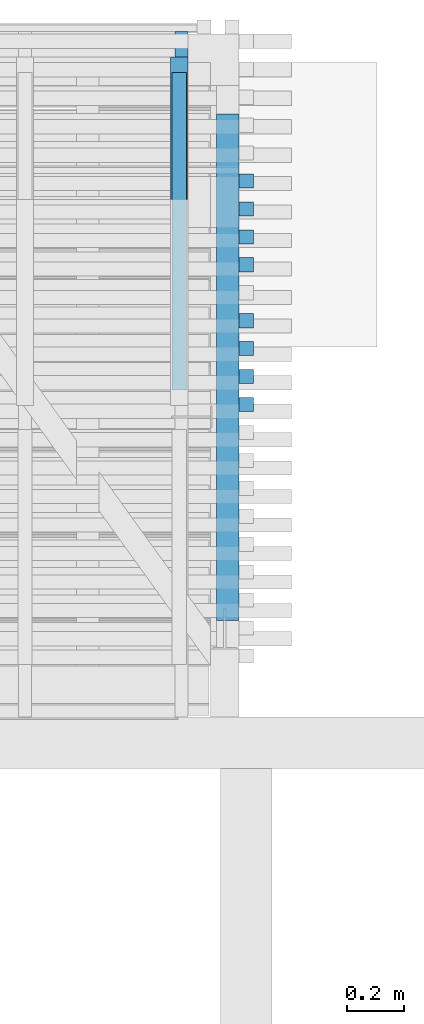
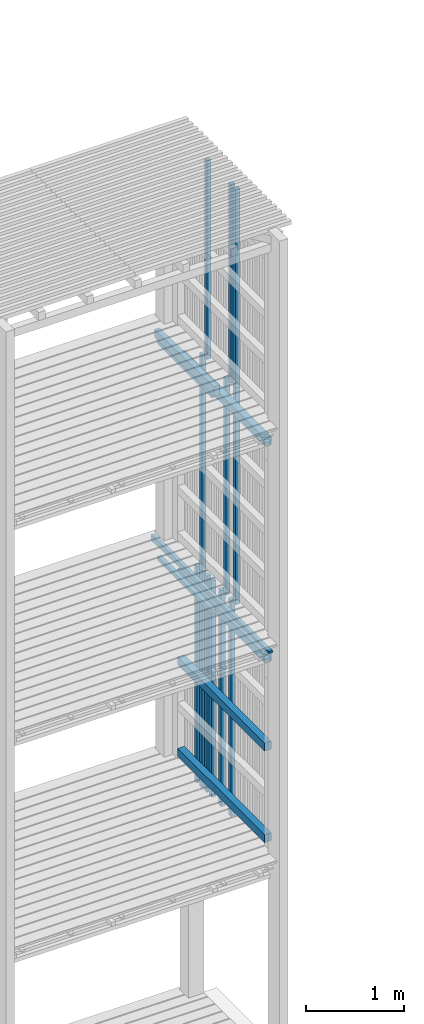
# One storey, part 157 of 182: 20 beams.
"""IFC2X3 building model written with IfcOpenShell, lengths in metres."""

from ifc_helpers import new_model, si_unit, frame, origin, place, context, project, spatial, faceted_brep, element, save


model = new_model("IFC2X3")

# Units and contexts
model_context = context("Model", 3, precision=1e-06, world=origin())
ifc_project = project(units=[si_unit("LENGTHUNIT", "METRE"), si_unit("PLANEANGLEUNIT", "RADIAN")], contexts=[model_context])

# Site, building, storey
site = spatial("IfcSite", under=ifc_project, CompositionType="ELEMENT")
building = spatial("IfcBuilding", under=site, CompositionType="ELEMENT")
storey = spatial("IfcBuildingStorey", under=building, Name="vs", CompositionType="ELEMENT", Elevation=-0.85)

# Beams
placement = place(None, origin())
beam_1_placement = place(placement, frame((36.344999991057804, 10.8100776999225, 7.774999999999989), z_axis=(0.0, 0.0, 1.0), x_axis=(0.0, 1.0, 0.0)))
element("IfcBeam", 1, at=beam_1_placement, inside=storey, Name="Support bardage", context=model_context, shape_type="Brep", body=[
    faceted_brep([(1.779999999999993, -0.039999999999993, 0.050000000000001), (1.779999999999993, -0.039999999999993, -0.050000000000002), (1.779999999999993, 0.04000000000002, -0.050000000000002), (1.779999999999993, 0.04000000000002, 0.050000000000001), (-4e-15, -0.039999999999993, -0.050000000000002), (1.779999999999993, -0.039999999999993, -0.050000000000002), (1.779999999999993, -0.039999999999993, 0.050000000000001), (-4e-15, -0.039999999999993, 0.050000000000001), (-4e-15, 0.04000000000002, -0.050000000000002), (1.779999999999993, 0.04000000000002, -0.050000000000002), (1.779999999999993, -0.039999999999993, -0.050000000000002), (-4e-15, -0.039999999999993, -0.050000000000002), (-4e-15, 0.04000000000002, 0.050000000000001), (1.779999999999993, 0.04000000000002, 0.050000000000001), (1.779999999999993, 0.04000000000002, -0.050000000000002), (-4e-15, 0.04000000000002, -0.050000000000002), (-4e-15, -0.039999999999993, 0.050000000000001), (1.779999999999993, -0.039999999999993, 0.050000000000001), (1.779999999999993, 0.04000000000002, 0.050000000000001), (-4e-15, 0.04000000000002, 0.050000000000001), (-4e-15, -0.039999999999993, -0.050000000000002), (-4e-15, -0.039999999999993, 0.050000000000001), (-4e-15, 0.04000000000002, 0.050000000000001), (-4e-15, 0.04000000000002, -0.050000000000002)], [[[0, 1, 2, 3]], [[4, 5, 6, 7]], [[8, 9, 10, 11]], [[12, 13, 14, 15]], [[16, 17, 18, 19]], [[20, 21, 22, 23]]]),
])
beam_2_placement = place(placement, frame((36.40999999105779, 11.765077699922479, 5.274999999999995), z_axis=(-1.0, 0.0, 0.0), x_axis=(0.0, 1e-15, 1.0)))
element("IfcBeam", 2, at=beam_2_placement, inside=storey, Name="Bardage", context=model_context, shape_type="Brep", body=[
    faceted_brep([(1e-15, -0.024999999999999, 0.024999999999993), (1e-15, 0.025000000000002, 0.024999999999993), (1e-15, 0.025000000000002, -0.025000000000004), (1e-15, -0.024999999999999, -0.025000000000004), (2.699999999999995, -0.025000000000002, -0.025000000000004), (2.699999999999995, 0.024999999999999, -0.025000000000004), (2.699999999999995, 0.024999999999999, 0.024999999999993), (2.699999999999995, -0.025000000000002, 0.024999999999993), (1e-15, -0.024999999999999, 0.024999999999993), (1e-15, -0.024999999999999, -0.025000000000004), (2.699999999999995, -0.025000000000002, -0.025000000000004), (2.699999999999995, -0.025000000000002, 0.024999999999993), (2.699999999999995, -0.025000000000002, -0.025000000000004), (1e-15, -0.024999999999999, -0.025000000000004), (1e-15, 0.025000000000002, -0.025000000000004), (2.699999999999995, 0.024999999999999, -0.025000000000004), (2.699999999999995, 0.024999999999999, -0.025000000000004), (1e-15, 0.025000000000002, -0.025000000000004), (1e-15, 0.025000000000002, 0.024999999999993), (2.699999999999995, 0.024999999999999, 0.024999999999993), (2.699999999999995, 0.024999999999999, 0.024999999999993), (1e-15, 0.025000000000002, 0.024999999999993), (1e-15, -0.024999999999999, 0.024999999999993), (2.699999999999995, -0.025000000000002, 0.024999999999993)], [[[0, 1, 2, 3]], [[4, 5, 6, 7]], [[8, 9, 10, 11]], [[12, 13, 14, 15]], [[16, 17, 18, 19]], [[20, 21, 22, 23]]]),
])
beam_3_placement = place(placement, frame((36.344999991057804, 10.8100776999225, 5.074999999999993), z_axis=(0.0, 0.0, 1.0), x_axis=(0.0, 1.0, 0.0)))
element("IfcBeam", 3, at=beam_3_placement, inside=storey, Name="Support bardage", context=model_context, shape_type="Brep", body=[
    faceted_brep([(1.779999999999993, -0.039999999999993, 0.050000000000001), (1.779999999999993, -0.039999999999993, -0.050000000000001), (1.779999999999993, 0.04000000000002, -0.050000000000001), (1.779999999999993, 0.04000000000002, 0.050000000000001), (-4e-15, -0.039999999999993, -0.050000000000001), (1.779999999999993, -0.039999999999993, -0.050000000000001), (1.779999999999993, -0.039999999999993, 0.050000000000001), (-4e-15, -0.039999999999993, 0.050000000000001), (-4e-15, 0.04000000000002, -0.050000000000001), (1.779999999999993, 0.04000000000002, -0.050000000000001), (1.779999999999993, -0.039999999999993, -0.050000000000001), (-4e-15, -0.039999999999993, -0.050000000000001), (-4e-15, 0.04000000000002, 0.050000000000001), (1.779999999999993, 0.04000000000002, 0.050000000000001), (1.779999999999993, 0.04000000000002, -0.050000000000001), (-4e-15, 0.04000000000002, -0.050000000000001), (-4e-15, -0.039999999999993, 0.050000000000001), (1.779999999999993, -0.039999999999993, 0.050000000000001), (1.779999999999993, 0.04000000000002, 0.050000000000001), (-4e-15, 0.04000000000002, 0.050000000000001), (-4e-15, -0.039999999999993, -0.050000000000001), (-4e-15, -0.039999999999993, 0.050000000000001), (-4e-15, 0.04000000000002, 0.050000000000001), (-4e-15, 0.04000000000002, -0.050000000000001)], [[[0, 1, 2, 3]], [[4, 5, 6, 7]], [[8, 9, 10, 11]], [[12, 13, 14, 15]], [[16, 17, 18, 19]], [[20, 21, 22, 23]]]),
])
beam_4_placement = place(placement, frame((36.1749999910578, 11.565077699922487, 8.00424999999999), z_axis=(0.0, 0.0, 1.0), x_axis=(-1.2e-14, 1.0, 0.0)))
element("IfcBeam", 4, at=beam_4_placement, inside=storey, Name="Solive", context=model_context, shape_type="Brep", body=[
    faceted_brep([(-1e-15, -0.029999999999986, 0.061850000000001), (-1e-15, -0.029999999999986, -0.061849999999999), (1.225000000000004, -0.03, -0.061849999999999), (1.225000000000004, -0.03, 0.037349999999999), (-1e-15, -0.029999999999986, -0.061849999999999), (-1e-15, -0.029999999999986, 0.061850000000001), (0.0, 0.030000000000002, 0.061849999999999), (0.0, 0.030000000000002, -0.061849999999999), (1.225000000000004, -0.03, -0.061849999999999), (-1e-15, -0.029999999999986, -0.061849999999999), (0.0, 0.030000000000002, -0.061849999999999), (1.225000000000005, 0.029999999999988, -0.061849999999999), (1.225000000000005, 0.029999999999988, 0.037349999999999), (1.225000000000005, 0.029999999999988, -0.061849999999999), (0.0, 0.030000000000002, -0.061849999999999), (0.0, 0.030000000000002, 0.061849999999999), (1.225000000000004, -0.03, 0.037349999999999), (1.225000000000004, -0.03, -0.061849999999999), (1.225000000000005, 0.029999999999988, -0.061849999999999), (1.225000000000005, 0.029999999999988, 0.037349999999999), (1.225000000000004, -0.03, 0.037349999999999), (1.225000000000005, 0.029999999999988, 0.037349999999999), (0.0, 0.030000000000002, 0.061849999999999), (-1e-15, -0.029999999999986, 0.061850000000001)], [[[0, 1, 2, 3]], [[4, 5, 6, 7]], [[8, 9, 10, 11]], [[12, 13, 14, 15]], [[16, 17, 18, 19]], [[20, 21, 22, 23]]]),
])
beam_5_placement = place(placement, frame((36.40999999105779, 12.059623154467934, 2.575000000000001), z_axis=(-1.0, 0.0, 0.0), x_axis=(0.0, 0.0, 1.0)))
element("IfcBeam", 5, at=beam_5_placement, inside=storey, Name="Bardage", context=model_context, shape_type="Brep", body=[
    faceted_brep([(0.0, -0.025000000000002, 0.024999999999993), (0.0, 0.024999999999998, 0.024999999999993), (0.0, 0.024999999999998, -0.025000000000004), (0.0, -0.025000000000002, -0.025000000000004), (2.699961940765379, 0.024999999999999, -0.025000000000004), (2.699961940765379, 0.024999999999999, 0.024999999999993), (2.699961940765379, -0.025000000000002, 0.024999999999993), (2.699961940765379, -0.025000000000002, -0.025000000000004), (0.0, -0.025000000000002, -0.025000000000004), (0.0, 0.024999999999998, -0.025000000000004), (2.699961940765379, 0.024999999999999, -0.025000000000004), (2.699961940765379, -0.025000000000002, -0.025000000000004), (2.699961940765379, 0.024999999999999, -0.025000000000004), (0.0, 0.024999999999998, -0.025000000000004), (0.0, 0.024999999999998, 0.024999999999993), (2.699961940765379, 0.024999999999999, 0.024999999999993), (2.699961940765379, 0.024999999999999, 0.024999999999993), (0.0, 0.024999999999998, 0.024999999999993), (0.0, -0.025000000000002, 0.024999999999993), (2.699961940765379, -0.025000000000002, 0.024999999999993), (2.699961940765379, -0.025000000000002, 0.024999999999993), (0.0, -0.025000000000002, 0.024999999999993), (0.0, -0.025000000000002, -0.025000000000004), (2.699961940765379, -0.025000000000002, -0.025000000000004)], [[[0, 1, 2, 3]], [[4, 5, 6, 7]], [[8, 9, 10, 11]], [[12, 13, 14, 15]], [[16, 17, 18, 19]], [[20, 21, 22, 23]]]),
])
beam_6_placement = place(placement, frame((36.40999999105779, 11.666895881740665, 2.575000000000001), z_axis=(-1.0, 0.0, 0.0), x_axis=(0.0, 0.0, 1.0)))
element("IfcBeam", 6, at=beam_6_placement, inside=storey, Name="Bardage", context=model_context, shape_type="Brep", body=[
    faceted_brep([(0.0, -0.025000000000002, 0.024999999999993), (0.0, 0.024999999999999, 0.024999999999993), (0.0, 0.024999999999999, -0.025000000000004), (0.0, -0.025000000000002, -0.025000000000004), (2.699961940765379, 0.024999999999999, -0.025000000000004), (2.699961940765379, 0.024999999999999, 0.024999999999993), (2.699961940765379, -0.025000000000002, 0.024999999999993), (2.699961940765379, -0.025000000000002, -0.025000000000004), (0.0, -0.025000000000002, -0.025000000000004), (0.0, 0.024999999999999, -0.025000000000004), (2.699961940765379, 0.024999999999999, -0.025000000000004), (2.699961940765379, -0.025000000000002, -0.025000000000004), (2.699961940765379, 0.024999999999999, -0.025000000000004), (0.0, 0.024999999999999, -0.025000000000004), (0.0, 0.024999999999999, 0.024999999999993), (2.699961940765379, 0.024999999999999, 0.024999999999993), (2.699961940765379, 0.024999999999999, 0.024999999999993), (0.0, 0.024999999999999, 0.024999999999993), (0.0, -0.025000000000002, 0.024999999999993), (2.699961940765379, -0.025000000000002, 0.024999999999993), (2.699961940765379, -0.025000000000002, 0.024999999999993), (0.0, -0.025000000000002, 0.024999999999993), (0.0, -0.025000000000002, -0.025000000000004), (2.699961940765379, -0.025000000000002, -0.025000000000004)], [[[0, 1, 2, 3]], [[4, 5, 6, 7]], [[8, 9, 10, 11]], [[12, 13, 14, 15]], [[16, 17, 18, 19]], [[20, 21, 22, 23]]]),
])
beam_7_placement = place(placement, frame((36.40999999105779, 11.568714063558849, 5.274999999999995), z_axis=(-1.0, 0.0, 0.0), x_axis=(0.0, 0.0, 1.0)))
element("IfcBeam", 7, at=beam_7_placement, inside=storey, Name="Bardage", context=model_context, shape_type="Brep", body=[
    faceted_brep([(1e-15, -0.024999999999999, 0.024999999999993), (1e-15, 0.024999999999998, 0.024999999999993), (1e-15, 0.024999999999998, -0.025000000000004), (1e-15, -0.024999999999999, -0.025000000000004), (2.699999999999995, -0.024999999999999, -0.025000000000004), (2.699999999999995, 0.024999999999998, -0.025000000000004), (2.699999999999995, 0.024999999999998, 0.024999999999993), (2.699999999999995, -0.024999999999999, 0.024999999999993), (1e-15, -0.024999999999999, 0.024999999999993), (1e-15, -0.024999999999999, -0.025000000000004), (2.699999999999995, -0.024999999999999, -0.025000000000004), (2.699999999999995, -0.024999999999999, 0.024999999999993), (2.699999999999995, -0.024999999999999, -0.025000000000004), (1e-15, -0.024999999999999, -0.025000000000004), (1e-15, 0.024999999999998, -0.025000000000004), (2.699999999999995, 0.024999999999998, -0.025000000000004), (2.699999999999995, 0.024999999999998, -0.025000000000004), (1e-15, 0.024999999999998, -0.025000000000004), (1e-15, 0.024999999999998, 0.024999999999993), (2.699999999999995, 0.024999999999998, 0.024999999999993), (2.699999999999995, 0.024999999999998, 0.024999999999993), (1e-15, 0.024999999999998, 0.024999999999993), (1e-15, -0.024999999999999, 0.024999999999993), (2.699999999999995, -0.024999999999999, 0.024999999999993)], [[[0, 1, 2, 3]], [[4, 5, 6, 7]], [[8, 9, 10, 11]], [[12, 13, 14, 15]], [[16, 17, 18, 19]], [[20, 21, 22, 23]]]),
])
beam_8_placement = place(placement, frame((36.40999999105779, 11.863259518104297, 2.575000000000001), z_axis=(-1.0, 0.0, 0.0), x_axis=(0.0, 0.0, 1.0)))
element("IfcBeam", 8, at=beam_8_placement, inside=storey, Name="Bardage", context=model_context, shape_type="Brep", body=[
    faceted_brep([(0.0, -0.024999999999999, 0.024999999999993), (0.0, 0.024999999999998, 0.024999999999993), (0.0, 0.024999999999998, -0.025000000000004), (0.0, -0.024999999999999, -0.025000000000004), (2.699961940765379, 0.024999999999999, -0.025000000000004), (2.699961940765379, 0.024999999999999, 0.024999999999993), (2.699961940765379, -0.024999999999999, 0.024999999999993), (2.699961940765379, -0.024999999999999, -0.025000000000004), (0.0, -0.024999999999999, -0.025000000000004), (0.0, 0.024999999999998, -0.025000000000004), (2.699961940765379, 0.024999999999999, -0.025000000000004), (2.699961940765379, -0.024999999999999, -0.025000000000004), (2.699961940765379, 0.024999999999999, -0.025000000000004), (0.0, 0.024999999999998, -0.025000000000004), (0.0, 0.024999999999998, 0.024999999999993), (2.699961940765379, 0.024999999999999, 0.024999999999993), (2.699961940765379, 0.024999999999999, 0.024999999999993), (0.0, 0.024999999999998, 0.024999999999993), (0.0, -0.024999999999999, 0.024999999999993), (2.699961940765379, -0.024999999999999, 0.024999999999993), (2.699961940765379, -0.024999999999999, 0.024999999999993), (0.0, -0.024999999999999, 0.024999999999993), (0.0, -0.024999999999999, -0.025000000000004), (2.699961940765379, -0.024999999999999, -0.025000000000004)], [[[0, 1, 2, 3]], [[4, 5, 6, 7]], [[8, 9, 10, 11]], [[12, 13, 14, 15]], [[16, 17, 18, 19]], [[20, 21, 22, 23]]]),
])
beam_9_placement = place(placement, frame((36.40999999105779, 11.568714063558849, 7.974999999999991), z_axis=(-1.0, 0.0, 0.0), x_axis=(0.0, 0.0, 1.0)))
element("IfcBeam", 9, at=beam_9_placement, inside=storey, Name="Bardage", context=model_context, shape_type="Brep", body=[
    faceted_brep([(2.479999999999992, -0.024999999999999, 0.024999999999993), (2.479999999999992, -0.024999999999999, -0.025000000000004), (2.479999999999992, 0.024999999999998, -0.025000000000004), (2.479999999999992, 0.024999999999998, 0.024999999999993), (0.0, 0.024999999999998, 0.024999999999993), (0.0, -0.024999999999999, 0.024999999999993), (2.479999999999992, -0.024999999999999, 0.024999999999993), (2.479999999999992, 0.024999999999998, 0.024999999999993), (0.0, -0.024999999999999, 0.024999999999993), (0.0, 0.024999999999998, 0.024999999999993), (0.0, 0.024999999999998, -0.025000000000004), (0.0, -0.024999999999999, -0.025000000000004), (0.0, 0.024999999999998, -0.025000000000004), (0.0, 0.024999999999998, 0.024999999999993), (2.479999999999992, 0.024999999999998, 0.024999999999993), (2.479999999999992, 0.024999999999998, -0.025000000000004), (0.0, -0.024999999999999, -0.025000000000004), (0.0, 0.024999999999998, -0.025000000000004), (2.479999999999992, 0.024999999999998, -0.025000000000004), (2.479999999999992, -0.024999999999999, -0.025000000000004), (2.479999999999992, -0.024999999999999, 0.024999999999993), (0.0, -0.024999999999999, 0.024999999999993), (0.0, -0.024999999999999, -0.025000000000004), (2.479999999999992, -0.024999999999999, -0.025000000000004)], [[[0, 1, 2, 3]], [[4, 5, 6, 7]], [[8, 9, 10, 11]], [[12, 13, 14, 15]], [[16, 17, 18, 19]], [[20, 21, 22, 23]]]),
])
beam_10_placement = place(placement, frame((36.40999999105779, 11.666895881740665, 7.974999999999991), z_axis=(-1.0, 0.0, 0.0), x_axis=(0.0, 0.0, 1.0)))
element("IfcBeam", 10, at=beam_10_placement, inside=storey, Name="Bardage", context=model_context, shape_type="Brep", body=[
    faceted_brep([(2.479999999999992, -0.025000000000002, 0.024999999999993), (2.479999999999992, -0.025000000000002, -0.025000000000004), (2.479999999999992, 0.024999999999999, -0.025000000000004), (2.479999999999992, 0.024999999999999, 0.024999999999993), (0.0, 0.024999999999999, 0.024999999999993), (0.0, -0.025000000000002, 0.024999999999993), (2.479999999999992, -0.025000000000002, 0.024999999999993), (2.479999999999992, 0.024999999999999, 0.024999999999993), (0.0, -0.025000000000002, 0.024999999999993), (0.0, 0.024999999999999, 0.024999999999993), (0.0, 0.024999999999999, -0.025000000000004), (0.0, -0.025000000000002, -0.025000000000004), (0.0, 0.024999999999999, -0.025000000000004), (0.0, 0.024999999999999, 0.024999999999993), (2.479999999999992, 0.024999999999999, 0.024999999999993), (2.479999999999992, 0.024999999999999, -0.025000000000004), (0.0, -0.025000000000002, -0.025000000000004), (0.0, 0.024999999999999, -0.025000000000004), (2.479999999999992, 0.024999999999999, -0.025000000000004), (2.479999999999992, -0.025000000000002, -0.025000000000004), (2.479999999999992, -0.025000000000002, 0.024999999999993), (0.0, -0.025000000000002, 0.024999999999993), (0.0, -0.025000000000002, -0.025000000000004), (2.479999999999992, -0.025000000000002, -0.025000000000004)], [[[0, 1, 2, 3]], [[4, 5, 6, 7]], [[8, 9, 10, 11]], [[12, 13, 14, 15]], [[16, 17, 18, 19]], [[20, 21, 22, 23]]]),
])
beam_11_placement = place(placement, frame((36.40999999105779, 12.255986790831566, 2.575000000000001), z_axis=(-1.0, 0.0, 0.0), x_axis=(0.0, 0.0, 1.0)))
element("IfcBeam", 11, at=beam_11_placement, inside=storey, Name="Bardage", context=model_context, shape_type="Brep", body=[
    faceted_brep([(0.0, -0.025000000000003, 0.024999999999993), (0.0, 0.025000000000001, 0.024999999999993), (0.0, 0.025000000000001, -0.025000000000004), (0.0, -0.025000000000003, -0.025000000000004), (2.699961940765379, 0.025000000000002, -0.025000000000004), (2.699961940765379, 0.025000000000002, 0.024999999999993), (2.699961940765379, -0.024999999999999, 0.024999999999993), (2.699961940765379, -0.024999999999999, -0.025000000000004), (0.0, -0.025000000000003, -0.025000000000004), (0.0, 0.025000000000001, -0.025000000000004), (2.699961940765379, 0.025000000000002, -0.025000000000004), (2.699961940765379, -0.024999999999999, -0.025000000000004), (2.699961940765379, 0.025000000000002, -0.025000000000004), (0.0, 0.025000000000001, -0.025000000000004), (0.0, 0.025000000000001, 0.024999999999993), (2.699961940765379, 0.025000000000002, 0.024999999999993), (2.699961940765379, 0.025000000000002, 0.024999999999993), (0.0, 0.025000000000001, 0.024999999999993), (0.0, -0.025000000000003, 0.024999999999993), (2.699961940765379, -0.024999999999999, 0.024999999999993), (2.699961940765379, -0.024999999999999, 0.024999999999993), (0.0, -0.025000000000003, 0.024999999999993), (0.0, -0.025000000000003, -0.025000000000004), (2.699961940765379, -0.024999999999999, -0.025000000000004)], [[[0, 1, 2, 3]], [[4, 5, 6, 7]], [[8, 9, 10, 11]], [[12, 13, 14, 15]], [[16, 17, 18, 19]], [[20, 21, 22, 23]]]),
])
beam_12_placement = place(placement, frame((36.17499999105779, 12.735077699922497, 7.91739999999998), z_axis=(0.0, 0.0, 1.0), x_axis=(0.0, -1.0, 0.0)))
element("IfcBeam", 12, at=beam_12_placement, inside=storey, Name="Calage", context=model_context, shape_type="Brep", body=[
    faceted_brep([(0.0, 0.025000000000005, -0.025), (0.0, -0.024999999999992, -0.025), (0.0, -0.024999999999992, 0.024999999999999), (0.0, 0.025000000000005, 0.024999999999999), (1.115000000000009, -0.024999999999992, 0.024999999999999), (1.115000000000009, -0.024999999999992, -0.025), (1.115000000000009, 0.025000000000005, -0.025), (1.115000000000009, 0.025000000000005, 0.024999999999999), (0.0, -0.024999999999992, 0.024999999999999), (0.0, -0.024999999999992, -0.025), (1.115000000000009, -0.024999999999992, -0.025), (1.115000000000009, -0.024999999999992, 0.024999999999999), (1.115000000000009, -0.024999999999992, -0.025), (0.0, -0.024999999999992, -0.025), (0.0, 0.025000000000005, -0.025), (1.115000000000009, 0.025000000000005, -0.025), (1.115000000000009, 0.025000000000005, -0.025), (0.0, 0.025000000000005, -0.025), (0.0, 0.025000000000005, 0.024999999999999), (1.115000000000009, 0.025000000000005, 0.024999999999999), (1.115000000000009, 0.025000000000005, 0.024999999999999), (0.0, 0.025000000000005, 0.024999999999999), (0.0, -0.024999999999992, 0.024999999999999), (1.115000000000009, -0.024999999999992, 0.024999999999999)], [[[0, 1, 2, 3]], [[4, 5, 6, 7]], [[8, 9, 10, 11]], [[12, 13, 14, 15]], [[16, 17, 18, 19]], [[20, 21, 22, 23]]]),
])
beam_13_placement = place(placement, frame((36.40999999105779, 12.354168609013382, 2.575000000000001), z_axis=(-1.0, 0.0, 0.0), x_axis=(0.0, 0.0, 1.0)))
element("IfcBeam", 13, at=beam_13_placement, inside=storey, Name="Bardage", context=model_context, shape_type="Brep", body=[
    faceted_brep([(0.0, -0.024999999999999, 0.024999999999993), (0.0, 0.024999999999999, 0.024999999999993), (0.0, 0.024999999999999, -0.025000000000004), (0.0, -0.024999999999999, -0.025000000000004), (2.699961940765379, 0.024999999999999, -0.025000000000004), (2.699961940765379, 0.024999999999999, 0.024999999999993), (2.699961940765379, -0.024999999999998, 0.024999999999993), (2.699961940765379, -0.024999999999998, -0.025000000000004), (0.0, -0.024999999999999, -0.025000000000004), (0.0, 0.024999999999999, -0.025000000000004), (2.699961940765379, 0.024999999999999, -0.025000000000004), (2.699961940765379, -0.024999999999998, -0.025000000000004), (2.699961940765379, 0.024999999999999, -0.025000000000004), (0.0, 0.024999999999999, -0.025000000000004), (0.0, 0.024999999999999, 0.024999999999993), (2.699961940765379, 0.024999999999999, 0.024999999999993), (2.699961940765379, 0.024999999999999, 0.024999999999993), (0.0, 0.024999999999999, 0.024999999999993), (0.0, -0.024999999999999, 0.024999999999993), (2.699961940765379, -0.024999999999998, 0.024999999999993), (2.699961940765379, -0.024999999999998, 0.024999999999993), (0.0, -0.024999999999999, 0.024999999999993), (0.0, -0.024999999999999, -0.025000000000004), (2.699961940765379, -0.024999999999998, -0.025000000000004)], [[[0, 1, 2, 3]], [[4, 5, 6, 7]], [[8, 9, 10, 11]], [[12, 13, 14, 15]], [[16, 17, 18, 19]], [[20, 21, 22, 23]]]),
])
beam_14_placement = place(placement, frame((36.40999999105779, 12.157804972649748, 2.575000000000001), z_axis=(-1.0, 0.0, 0.0), x_axis=(0.0, 0.0, 1.0)))
element("IfcBeam", 14, at=beam_14_placement, inside=storey, Name="Bardage", context=model_context, shape_type="Brep", body=[
    faceted_brep([(0.0, -0.024999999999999, 0.024999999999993), (0.0, 0.025000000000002, 0.024999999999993), (0.0, 0.025000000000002, -0.025000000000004), (0.0, -0.024999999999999, -0.025000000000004), (2.699961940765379, 0.025000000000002, -0.025000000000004), (2.699961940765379, 0.025000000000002, 0.024999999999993), (2.699961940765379, -0.024999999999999, 0.024999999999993), (2.699961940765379, -0.024999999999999, -0.025000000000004), (0.0, -0.024999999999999, -0.025000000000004), (0.0, 0.025000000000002, -0.025000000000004), (2.699961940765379, 0.025000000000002, -0.025000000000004), (2.699961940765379, -0.024999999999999, -0.025000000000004), (2.699961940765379, 0.025000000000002, -0.025000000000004), (0.0, 0.025000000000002, -0.025000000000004), (0.0, 0.025000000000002, 0.024999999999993), (2.699961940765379, 0.025000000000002, 0.024999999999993), (2.699961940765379, 0.025000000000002, 0.024999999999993), (0.0, 0.025000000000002, 0.024999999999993), (0.0, -0.024999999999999, 0.024999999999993), (2.699961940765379, -0.024999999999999, 0.024999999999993), (2.699961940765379, -0.024999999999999, 0.024999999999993), (0.0, -0.024999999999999, 0.024999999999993), (0.0, -0.024999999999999, -0.025000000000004), (2.699961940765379, -0.024999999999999, -0.025000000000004)], [[[0, 1, 2, 3]], [[4, 5, 6, 7]], [[8, 9, 10, 11]], [[12, 13, 14, 15]], [[16, 17, 18, 19]], [[20, 21, 22, 23]]]),
])
beam_15_placement = place(placement, frame((36.344999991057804, 10.8100776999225, 3.972499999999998), z_axis=(0.0, 0.0, 1.0), x_axis=(0.0, 1.0, 0.0)))
element("IfcBeam", 15, at=beam_15_placement, inside=storey, Name="Support bardage", context=model_context, shape_type="Brep", body=[
    faceted_brep([(1.779999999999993, -0.039999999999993, 0.050000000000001), (1.779999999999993, -0.039999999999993, -0.050000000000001), (1.779999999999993, 0.04000000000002, -0.050000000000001), (1.779999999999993, 0.04000000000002, 0.050000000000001), (-4e-15, -0.039999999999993, -0.050000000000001), (1.779999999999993, -0.039999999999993, -0.050000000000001), (1.779999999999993, -0.039999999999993, 0.050000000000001), (-4e-15, -0.039999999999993, 0.050000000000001), (-4e-15, 0.04000000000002, -0.050000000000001), (1.779999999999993, 0.04000000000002, -0.050000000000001), (1.779999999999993, -0.039999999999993, -0.050000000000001), (-4e-15, -0.039999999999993, -0.050000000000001), (-4e-15, 0.04000000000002, 0.050000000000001), (1.779999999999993, 0.04000000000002, 0.050000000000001), (1.779999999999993, 0.04000000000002, -0.050000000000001), (-4e-15, 0.04000000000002, -0.050000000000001), (-4e-15, -0.039999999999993, 0.050000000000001), (1.779999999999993, -0.039999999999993, 0.050000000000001), (1.779999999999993, 0.04000000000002, 0.050000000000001), (-4e-15, 0.04000000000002, 0.050000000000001), (-4e-15, -0.039999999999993, -0.050000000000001), (-4e-15, -0.039999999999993, 0.050000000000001), (-4e-15, 0.04000000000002, 0.050000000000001), (-4e-15, 0.04000000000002, -0.050000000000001)], [[[0, 1, 2, 3]], [[4, 5, 6, 7]], [[8, 9, 10, 11]], [[12, 13, 14, 15]], [[16, 17, 18, 19]], [[20, 21, 22, 23]]]),
])
beam_16_placement = place(placement, frame((36.182499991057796, 10.470077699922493, 5.384400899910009), z_axis=(0.0, 0.0, 1.0), x_axis=(0.0, 1.0, 0.0)))
element("IfcBeam", 16, at=beam_16_placement, inside=storey, Name="Calage", context=model_context, shape_type="Brep", body=[
    faceted_brep([(2.410000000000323, -0.022499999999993, -0.035599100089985), (0.0, -0.022499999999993, 0.012600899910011), (0.0, 0.022500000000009, 0.012600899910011), (2.410000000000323, 0.022500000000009, -0.035599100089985), (0.0, 0.022500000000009, 0.035599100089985), (0.0, 0.022500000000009, 0.012600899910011), (0.0, -0.022499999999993, 0.012600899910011), (0.0, -0.022499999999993, 0.035599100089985), (2.410000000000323, 0.022500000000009, -0.035599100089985), (0.0, 0.022500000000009, 0.012600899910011), (0.0, 0.022500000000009, 0.035599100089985), (2.410000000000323, 0.022500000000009, 0.035599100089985), (2.410000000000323, -0.022499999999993, 0.035599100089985), (0.0, -0.022499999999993, 0.035599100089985), (0.0, -0.022499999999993, 0.012600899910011), (2.410000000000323, -0.022499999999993, -0.035599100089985), (2.410000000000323, 0.022500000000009, 0.035599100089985), (0.0, 0.022500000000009, 0.035599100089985), (0.0, -0.022499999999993, 0.035599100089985), (2.410000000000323, -0.022499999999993, 0.035599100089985), (2.410000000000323, 0.022500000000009, -0.035599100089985), (2.410000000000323, 0.022500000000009, 0.035599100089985), (2.410000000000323, -0.022499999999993, 0.035599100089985), (2.410000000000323, -0.022499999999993, -0.035599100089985)], [[[0, 1, 2, 3]], [[4, 5, 6, 7]], [[8, 9, 10, 11]], [[12, 13, 14, 15]], [[16, 17, 18, 19]], [[20, 21, 22, 23]]]),
])
beam_17_placement = place(placement, frame((36.344999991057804, 10.8100776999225, 2.830000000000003), z_axis=(0.0, 0.0, 1.0), x_axis=(0.0, 1.0, 0.0)))
element("IfcBeam", 17, at=beam_17_placement, inside=storey, Name="Support bardage", context=model_context, shape_type="Brep", body=[
    faceted_brep([(1.779999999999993, -0.039999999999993, 0.05), (1.779999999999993, -0.039999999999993, -0.050000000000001), (1.779999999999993, 0.04000000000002, -0.050000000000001), (1.779999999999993, 0.04000000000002, 0.05), (-4e-15, -0.039999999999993, -0.050000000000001), (1.779999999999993, -0.039999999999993, -0.050000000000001), (1.779999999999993, -0.039999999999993, 0.05), (-4e-15, -0.039999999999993, 0.05), (-4e-15, 0.04000000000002, -0.050000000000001), (1.779999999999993, 0.04000000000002, -0.050000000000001), (1.779999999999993, -0.039999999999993, -0.050000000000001), (-4e-15, -0.039999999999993, -0.050000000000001), (-4e-15, 0.04000000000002, 0.05), (1.779999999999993, 0.04000000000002, 0.05), (1.779999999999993, 0.04000000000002, -0.050000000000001), (-4e-15, 0.04000000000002, -0.050000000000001), (-4e-15, -0.039999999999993, 0.05), (1.779999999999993, -0.039999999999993, 0.05), (1.779999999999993, 0.04000000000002, 0.05), (-4e-15, 0.04000000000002, 0.05), (-4e-15, -0.039999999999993, -0.050000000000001), (-4e-15, -0.039999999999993, 0.05), (-4e-15, 0.04000000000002, 0.05), (-4e-15, 0.04000000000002, -0.050000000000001)], [[[0, 1, 2, 3]], [[4, 5, 6, 7]], [[8, 9, 10, 11]], [[12, 13, 14, 15]], [[16, 17, 18, 19]], [[20, 21, 22, 23]]]),
])
beam_18_placement = place(placement, frame((36.17499999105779, 12.735077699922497, 5.217399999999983), z_axis=(0.0, 0.0, 1.0), x_axis=(0.0, -1.0, 0.0)))
element("IfcBeam", 18, at=beam_18_placement, inside=storey, Name="Calage", context=model_context, shape_type="Brep", body=[
    faceted_brep([(0.0, 0.025000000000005, -0.025), (0.0, -0.024999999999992, -0.025), (0.0, -0.024999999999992, 0.024999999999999), (0.0, 0.025000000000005, 0.024999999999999), (1.115000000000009, -0.024999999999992, 0.024999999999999), (1.115000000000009, -0.024999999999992, -0.025), (1.115000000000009, 0.025000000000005, -0.025), (1.115000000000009, 0.025000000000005, 0.024999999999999), (0.0, -0.024999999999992, 0.024999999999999), (0.0, -0.024999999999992, -0.025), (1.115000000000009, -0.024999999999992, -0.025), (1.115000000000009, -0.024999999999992, 0.024999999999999), (1.115000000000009, -0.024999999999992, -0.025), (0.0, -0.024999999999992, -0.025), (0.0, 0.025000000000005, -0.025), (1.115000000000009, 0.025000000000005, -0.025), (1.115000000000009, 0.025000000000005, -0.025), (0.0, 0.025000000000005, -0.025), (0.0, 0.025000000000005, 0.024999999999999), (1.115000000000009, 0.025000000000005, 0.024999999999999), (1.115000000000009, 0.025000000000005, 0.024999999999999), (0.0, 0.025000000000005, 0.024999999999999), (0.0, -0.024999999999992, 0.024999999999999), (1.115000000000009, -0.024999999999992, 0.024999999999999)], [[[0, 1, 2, 3]], [[4, 5, 6, 7]], [[8, 9, 10, 11]], [[12, 13, 14, 15]], [[16, 17, 18, 19]], [[20, 21, 22, 23]]]),
])
beam_19_placement = place(placement, frame((36.40999999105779, 12.157804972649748, 7.974999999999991), z_axis=(-1.0, 0.0, 0.0), x_axis=(0.0, 0.0, 1.0)))
element("IfcBeam", 19, at=beam_19_placement, inside=storey, Name="Bardage", context=model_context, shape_type="Brep", body=[
    faceted_brep([(2.479999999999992, -0.024999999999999, 0.024999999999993), (2.479999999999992, -0.024999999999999, -0.025000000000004), (2.479999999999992, 0.025000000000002, -0.025000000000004), (2.479999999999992, 0.025000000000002, 0.024999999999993), (0.0, 0.024999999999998, 0.024999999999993), (0.0, -0.024999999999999, 0.024999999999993), (2.479999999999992, -0.024999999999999, 0.024999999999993), (2.479999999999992, 0.025000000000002, 0.024999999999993), (0.0, -0.024999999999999, 0.024999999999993), (0.0, 0.024999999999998, 0.024999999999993), (0.0, 0.024999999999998, -0.025000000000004), (0.0, -0.024999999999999, -0.025000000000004), (0.0, 0.024999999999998, -0.025000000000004), (0.0, 0.024999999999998, 0.024999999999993), (2.479999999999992, 0.025000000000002, 0.024999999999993), (2.479999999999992, 0.025000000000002, -0.025000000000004), (0.0, -0.024999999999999, -0.025000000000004), (0.0, 0.024999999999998, -0.025000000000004), (2.479999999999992, 0.025000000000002, -0.025000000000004), (2.479999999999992, -0.024999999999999, -0.025000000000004), (2.479999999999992, -0.024999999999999, 0.024999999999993), (0.0, -0.024999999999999, 0.024999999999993), (0.0, -0.024999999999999, -0.025000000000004), (2.479999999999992, -0.024999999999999, -0.025000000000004)], [[[0, 1, 2, 3]], [[4, 5, 6, 7]], [[8, 9, 10, 11]], [[12, 13, 14, 15]], [[16, 17, 18, 19]], [[20, 21, 22, 23]]]),
])
beam_20_placement = place(placement, frame((36.40999999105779, 12.255986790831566, 5.274999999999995), z_axis=(-1.0, 0.0, 0.0), x_axis=(0.0, 0.0, 1.0)))
element("IfcBeam", 20, at=beam_20_placement, inside=storey, Name="Bardage", context=model_context, shape_type="Brep", body=[
    faceted_brep([(1e-15, -0.025000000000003, 0.024999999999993), (1e-15, 0.025000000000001, 0.024999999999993), (1e-15, 0.025000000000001, -0.025000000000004), (1e-15, -0.025000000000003, -0.025000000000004), (2.699999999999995, -0.025000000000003, -0.025000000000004), (2.699999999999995, 0.025000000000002, -0.025000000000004), (2.699999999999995, 0.025000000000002, 0.024999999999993), (2.699999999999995, -0.025000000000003, 0.024999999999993), (1e-15, -0.025000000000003, 0.024999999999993), (1e-15, -0.025000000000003, -0.025000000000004), (2.699999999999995, -0.025000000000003, -0.025000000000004), (2.699999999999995, -0.025000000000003, 0.024999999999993), (2.699999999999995, -0.025000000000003, -0.025000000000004), (1e-15, -0.025000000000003, -0.025000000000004), (1e-15, 0.025000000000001, -0.025000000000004), (2.699999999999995, 0.025000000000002, -0.025000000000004), (2.699999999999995, 0.025000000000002, -0.025000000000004), (1e-15, 0.025000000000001, -0.025000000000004), (1e-15, 0.025000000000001, 0.024999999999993), (2.699999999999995, 0.025000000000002, 0.024999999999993), (2.699999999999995, 0.025000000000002, 0.024999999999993), (1e-15, 0.025000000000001, 0.024999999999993), (1e-15, -0.025000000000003, 0.024999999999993), (2.699999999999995, -0.025000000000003, 0.024999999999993)], [[[0, 1, 2, 3]], [[4, 5, 6, 7]], [[8, 9, 10, 11]], [[12, 13, 14, 15]], [[16, 17, 18, 19]], [[20, 21, 22, 23]]]),
])

save(model, "model.ifc")
